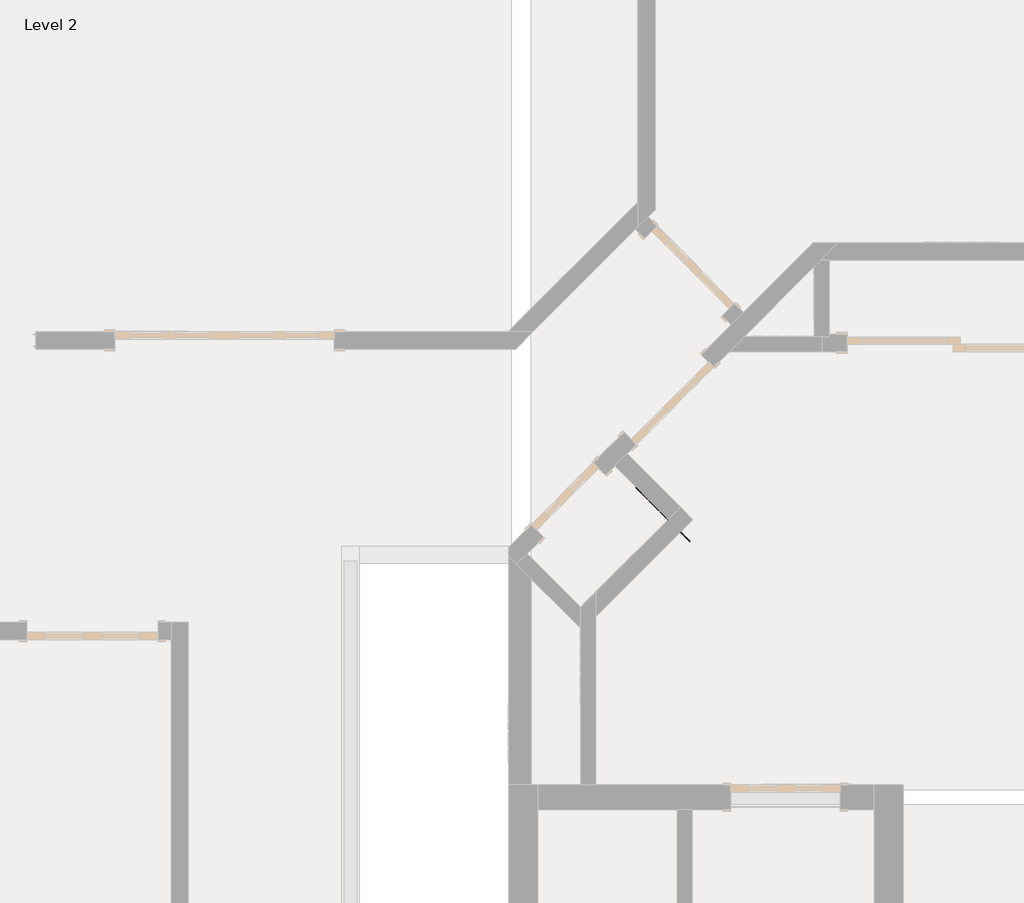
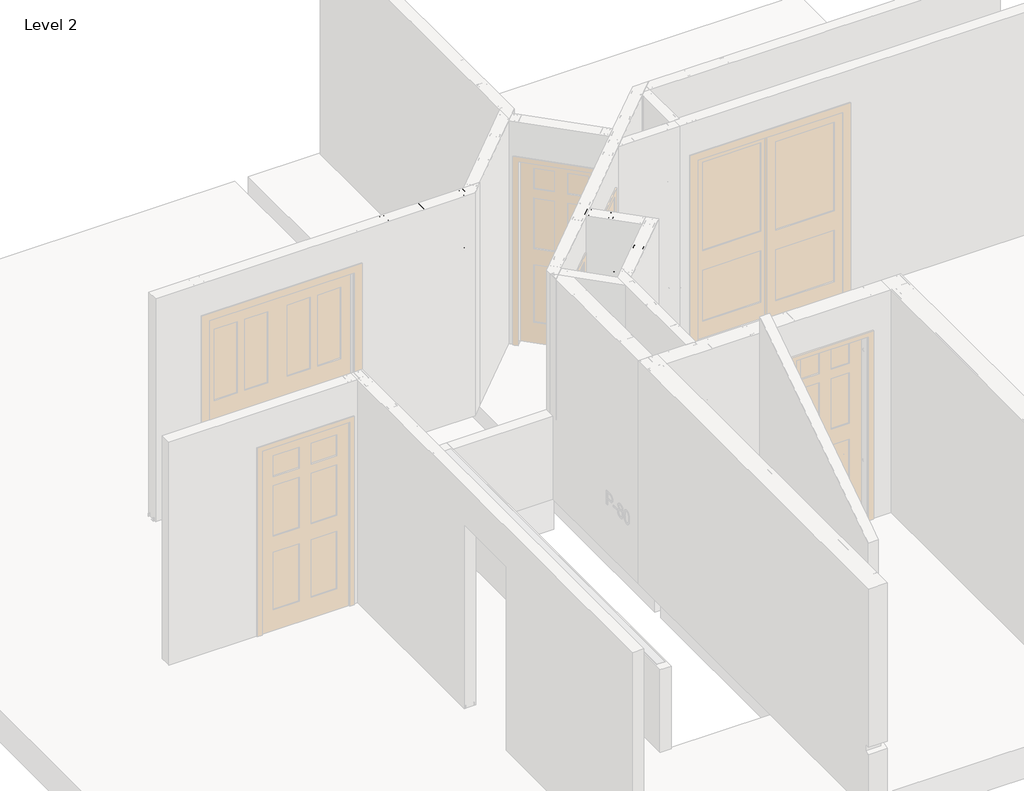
# One storey, part 31 of 46: 6 columns, 2 beams, 1 fastener.
"""IFC4 building model written with IfcOpenShell, lengths in millimetres."""

from ifc_helpers import new_model, si_unit, point, frame, origin, place, context, project, spatial, circle_curve, ellipse_curve, trimmed, transform, mapped, element, save
from ifc_brep_helpers import plane_surface, extruded_surface, advanced_brep
from components import beam_350nf150_33_7715317e, beam_350nf150_33_a87a63be, panellabel_a8dc8bce

model = new_model("IFC4")

# Units and contexts
model_context = context("Model", 3, world=origin())
ifc_project = project(units=[si_unit("LENGTHUNIT", "METRE", prefix="MILLI")], contexts=[model_context])

# Site, building, storey
site = spatial("IfcSite", under=ifc_project)
building = spatial("IfcBuilding", under=site)
storey = spatial("IfcBuildingStorey", under=building, Name="Level 2", Elevation=3060.7)

# Beams
placement = place(None, origin())
beam_350nf150_33_shape = beam_350nf150_33_7715317e(model_context)
element("IfcBeam", 1, ObjectType="BIMSF-SSMA-S : 350NF150-33", at=placement, inside=storey, context=model_context, shape_type="MappedRepresentation", body=[
    mapped(beam_350nf150_33_shape, transform((-9739.7604385, 9633.077221, 3076.575), x_axis=(1.0000000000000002, 0.0, 0.0), y_axis=(0.0, 0.0, -1.0000000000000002), z_axis=(0.0, 1.0000000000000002, 0.0))),
])
beam_350nf150_33_2_shape = beam_350nf150_33_a87a63be(model_context)
element("IfcBeam", 2, ObjectType="BIMSF-SSMA-S : 350NF150-33", at=placement, inside=storey, context=model_context, shape_type="MappedRepresentation", body=[
    mapped(beam_350nf150_33_2_shape, transform((-8122.4911484, 8584.2678593, 3076.575), x_axis=(-0.7071067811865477, 0.7071067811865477, 0.0), y_axis=(0.0, 0.0, -1.0000000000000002), z_axis=(-0.7071067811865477, -0.7071067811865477, 0.0))),
])

# Columns
element("IfcColumn", 3, ObjectType="BIMSF-SSMA-S-Column : 350NF150-33", at=placement, inside=storey, context=model_context, shape_type="AdvancedBrep", body=[
    advanced_brep(
    [(-9143.179542, 9677.527221, 3061.5929687), (-9143.179542, 9588.627221, 3061.5929687), (-9181.279542, 9588.627221, 3061.5929687), (-9181.279542, 9594.2847367, 3061.5929687), (-9180.3972263, 9594.2847367, 3061.5929687), (-9180.3972263, 9589.5095367, 3061.5929687), (-9144.0618578, 9589.5095367, 3061.5929687), (-9144.0618578, 9676.6449052, 3061.5929687), (-9180.3972263, 9676.6449052, 3061.5929687), (-9180.3972263, 9671.8697052, 3061.5929687), (-9181.279542, 9671.8697052, 3061.5929687), (-9181.279542, 9677.527221, 3061.5929687), (-9143.179542, 9677.527221, 5523.6070313), (-9143.179542, 9588.627221, 5523.6070313), (-9143.179542, 9620.377221, 3671.1929687), (-9143.179542, 9645.777221, 3671.1929687), (-9143.179542, 9620.377221, 4890.3929687), (-9143.179542, 9645.777221, 4890.3929687), (-9181.279542, 9588.627221, 5523.6070313), (-9181.279542, 9594.2847367, 5523.6070313), (-9180.3972263, 9594.2847367, 5523.6070313), (-9180.3972263, 9589.5095367, 5523.6070313), (-9144.0618578, 9589.5095367, 5523.6070313), (-9144.0618578, 9676.6449052, 5523.6070313), (-9144.0618578, 9645.777221, 3671.1929688), (-9144.0618578, 9620.377221, 3671.1929688), (-9144.0618578, 9645.777221, 4890.3929687), (-9144.0618578, 9620.377221, 4890.3929687), (-9180.3972263, 9676.6449052, 5523.6070313), (-9180.3972263, 9671.8697052, 5523.6070313), (-9181.279542, 9671.8697052, 5523.6070313), (-9181.279542, 9677.527221, 5523.6070313)],
    [
        (0, 1),
        (1, 2),
        (2, 3),
        (3, 4),
        (4, 5),
        (5, 6),
        (6, 7),
        (7, 8),
        (8, 9),
        (9, 10),
        (10, 11),
        (11, 0),
        (0, 12),
        (12, 13),
        (13, 1),
        (14, 15, circle_curve(frame((-9143.179542, 9633.077221, 3671.1929688), z_axis=(-1.0, 0.0, 0.0), x_axis=(0.0, -1.0, 0.0)), 12.7)),
        (15, 14, circle_curve(frame((-9143.179542, 9633.077221, 3671.1929688), z_axis=(-1.0, 0.0, 0.0), x_axis=(0.0, -1.0, 0.0)), 12.7)),
        (16, 17, circle_curve(frame((-9143.179542, 9633.077221, 4890.3929687), z_axis=(-1.0, 0.0, 0.0), x_axis=(0.0, -1.0, 0.0)), 12.7)),
        (17, 16, circle_curve(frame((-9143.179542, 9633.077221, 4890.3929687), z_axis=(-1.0, 0.0, 0.0), x_axis=(0.0, -1.0, 0.0)), 12.7)),
        (13, 18),
        (18, 2),
        (18, 19),
        (19, 3),
        (19, 20),
        (20, 4),
        (20, 21),
        (21, 5),
        (21, 22),
        (22, 6),
        (22, 23),
        (23, 7),
        (24, 25, circle_curve(frame((-9144.0618578, 9633.077221, 3671.1929687), z_axis=(1.0, 0.0, 0.0), x_axis=(0.0, -1.0, 0.0)), 12.7)),
        (25, 24, circle_curve(frame((-9144.0618578, 9633.077221, 3671.1929687), z_axis=(1.0, 0.0, 0.0), x_axis=(0.0, -1.0, 0.0)), 12.7)),
        (26, 27, circle_curve(frame((-9144.0618578, 9633.077221, 4890.3929687), z_axis=(1.0, 0.0, 0.0), x_axis=(0.0, -1.0, 0.0)), 12.7)),
        (27, 26, circle_curve(frame((-9144.0618578, 9633.077221, 4890.3929687), z_axis=(1.0, 0.0, 0.0), x_axis=(0.0, -1.0, 0.0)), 12.7)),
        (23, 28),
        (28, 8),
        (28, 29),
        (29, 9),
        (29, 30),
        (30, 10),
        (30, 31),
        (31, 11),
        (31, 12),
        (24, 15),
        (14, 25),
        (26, 17),
        (16, 27),
    ],
    [
        plane_surface(frame((-9143.179542, 9677.527221, 3061.5929687), z_axis=(0.0, 0.0, -1.0), x_axis=(1.0, 0.0, 0.0))),
        plane_surface(frame((-9143.179542, 9588.627221, 5523.6070313), z_axis=(1.0, 0.0, 0.0), x_axis=(0.0, 0.0, -1.0))),
        plane_surface(frame((-9181.279542, 9588.627221, 5523.6070313), z_axis=(0.0, -1.0, 0.0), x_axis=(0.0, 0.0, -1.0))),
        plane_surface(frame((-9181.279542, 9594.2847367, 5523.6070313), z_axis=(-1.0, 0.0, 0.0), x_axis=(0.0, 0.0, -1.0))),
        plane_surface(frame((-9180.3972263, 9594.2847367, 5523.6070313), z_axis=(0.0, 1.0, 0.0), x_axis=(0.0, 0.0, -1.0))),
        plane_surface(frame((-9180.3972263, 9589.5095367, 5523.6070313), z_axis=(1.0, 0.0, 0.0), x_axis=(0.0, 0.0, -1.0))),
        plane_surface(frame((-9144.0618578, 9589.5095367, 5523.6070313), z_axis=(0.0, 1.0, 0.0), x_axis=(0.0, 0.0, -1.0))),
        plane_surface(frame((-9144.0618578, 9676.6449052, 5523.6070313), z_axis=(-1.0, 0.0, 0.0), x_axis=(0.0, 0.0, -1.0))),
        plane_surface(frame((-9180.3972263, 9676.6449052, 5523.6070313), z_axis=(0.0, -1.0, 0.0), x_axis=(0.0, 0.0, -1.0))),
        plane_surface(frame((-9180.3972263, 9671.8697052, 5523.6070313), z_axis=(1.0, 0.0, 0.0), x_axis=(0.0, 0.0, -1.0))),
        plane_surface(frame((-9181.279542, 9671.8697052, 5523.6070313), z_axis=(0.0, -1.0, 0.0), x_axis=(0.0, 0.0, -1.0))),
        plane_surface(frame((-9181.279542, 9677.527221, 5523.6070313), z_axis=(-1.0, 0.0, 0.0), x_axis=(0.0, 0.0, -1.0))),
        plane_surface(frame((-9143.179542, 9677.527221, 5523.6070313), z_axis=(0.0, 1.0, 0.0), x_axis=(0.0, 0.0, -1.0))),
        plane_surface(frame((-9143.179542, 9677.527221, 5523.6070313), z_axis=(0.0, 0.0, 1.0), x_axis=(-1.0, 0.0, 0.0))),
        extruded_surface(trimmed(ellipse_curve(frame((-11624.2436045, 9633.077221, 3671.1929688), z_axis=(1.0, 0.0, 0.0), x_axis=(0.0, -1.0, 0.0)), 12.7, 12.7), [point((-11624.2436045, 9645.777221, 3671.1929688))], [point((-11624.2436045, 9620.377221, 3671.1929688))], True, "CARTESIAN"), (-4924.028125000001, 0.0, 0.0), 4924.028125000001),
        extruded_surface(trimmed(ellipse_curve(frame((-11624.2436045, 9633.077221, 3671.1929688), z_axis=(1.0, 0.0, 0.0), x_axis=(0.0, -1.0, 0.0)), 12.7, 12.7), [point((-11624.2436045, 9620.377221, 3671.1929688))], [point((-11624.2436045, 9645.777221, 3671.1929688))], True, "CARTESIAN"), (-4924.028125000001, 0.0, 0.0), 4924.028125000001),
        extruded_surface(trimmed(ellipse_curve(frame((-11624.2436045, 9633.077221, 4890.3929687), z_axis=(1.0, 0.0, 0.0), x_axis=(0.0, -1.0, 0.0)), 12.7, 12.7), [point((-11624.2436045, 9645.777221, 4890.3929687))], [point((-11624.2436045, 9620.377221, 4890.3929687))], True, "CARTESIAN"), (-4924.028125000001, 0.0, 0.0), 4924.028125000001),
        extruded_surface(trimmed(ellipse_curve(frame((-11624.2436045, 9633.077221, 4890.3929687), z_axis=(1.0, 0.0, 0.0), x_axis=(0.0, -1.0, 0.0)), 12.7, 12.7), [point((-11624.2436045, 9620.377221, 4890.3929687))], [point((-11624.2436045, 9645.777221, 4890.3929687))], True, "CARTESIAN"), (-4924.028125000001, 0.0, 0.0), 4924.028125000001),
    ],
    [
        (0, [[1, 2, 3, 4, 5, 6, 7, 8, 9, 10, 11, 12]]),
        (1, [[-1, 13, 14, 15], [16, 17], [18, 19]]),
        (2, [[-2, -15, 20, 21]]),
        (3, [[-3, -21, 22, 23]]),
        (4, [[-4, -23, 24, 25]]),
        (5, [[-5, -25, 26, 27]]),
        (6, [[-6, -27, 28, 29]]),
        (7, [[-7, -29, 30, 31], [32, 33], [34, 35]]),
        (8, [[-8, -31, 36, 37]]),
        (9, [[-9, -37, 38, 39]]),
        (10, [[-10, -39, 40, 41]]),
        (11, [[-11, -41, 42, 43]]),
        (12, [[-12, -43, 44, -13]]),
        (13, [[-14, -44, -42, -40, -38, -36, -30, -28, -26, -24, -22, -20]]),
        (14, [[45, -16, 46, -32]]),
        (15, [[-45, -33, -46, -17]]),
        (16, [[47, -18, 48, -34]]),
        (17, [[-47, -35, -48, -19]]),
    ],
),
])
element("IfcColumn", 4, ObjectType="BIMSF-SSMA-S-Column : 350NF150-33", at=placement, inside=storey, context=model_context, shape_type="AdvancedBrep", body=[
    advanced_brep(
    [(-10009.3163349, 9588.627221, 3061.5929687), (-10009.3163349, 9677.527221, 3061.5929687), (-9971.2163349, 9677.527221, 3061.5929687), (-9971.2163349, 9671.8697052, 3061.5929687), (-9972.0986507, 9671.8697052, 3061.5929687), (-9972.0986507, 9676.6449052, 3061.5929687), (-10008.4340191, 9676.6449052, 3061.5929687), (-10008.4340191, 9589.5095367, 3061.5929687), (-9972.0986507, 9589.5095367, 3061.5929687), (-9972.0986507, 9594.2847367, 3061.5929687), (-9971.2163349, 9594.2847367, 3061.5929687), (-9971.2163349, 9588.627221, 3061.5929687), (-10009.3163349, 9588.627221, 5523.6070313), (-10009.3163349, 9677.527221, 5523.6070313), (-10009.3163349, 9645.777221, 3671.1929688), (-10009.3163349, 9620.377221, 3671.1929688), (-10009.3163349, 9645.777221, 4890.3929687), (-10009.3163349, 9620.377221, 4890.3929687), (-9971.2163349, 9677.527221, 5523.6070313), (-9971.2163349, 9671.8697052, 5523.6070313), (-9972.0986507, 9671.8697052, 5523.6070313), (-9972.0986507, 9676.6449052, 5523.6070313), (-10008.4340191, 9676.6449052, 5523.6070313), (-10008.4340191, 9589.5095367, 5523.6070313), (-10008.4340191, 9620.377221, 3671.1929688), (-10008.4340191, 9645.777221, 3671.1929688), (-10008.4340191, 9620.377221, 4890.3929687), (-10008.4340191, 9645.777221, 4890.3929687), (-9972.0986507, 9589.5095367, 5523.6070313), (-9972.0986507, 9594.2847367, 5523.6070313), (-9971.2163349, 9594.2847367, 5523.6070313), (-9971.2163349, 9588.627221, 5523.6070313)],
    [
        (0, 1),
        (1, 2),
        (2, 3),
        (3, 4),
        (4, 5),
        (5, 6),
        (6, 7),
        (7, 8),
        (8, 9),
        (9, 10),
        (10, 11),
        (11, 0),
        (0, 12),
        (12, 13),
        (13, 1),
        (14, 15, circle_curve(frame((-10009.3163349, 9633.077221, 3671.1929687), z_axis=(1.0, 0.0, 0.0), x_axis=(0.0, 1.0, 0.0)), 12.7)),
        (15, 14, circle_curve(frame((-10009.3163349, 9633.077221, 3671.1929687), z_axis=(1.0, 0.0, 0.0), x_axis=(0.0, 1.0, 0.0)), 12.7)),
        (16, 17, circle_curve(frame((-10009.3163349, 9633.077221, 4890.3929687), z_axis=(1.0, 0.0, 0.0), x_axis=(0.0, 1.0, 0.0)), 12.7)),
        (17, 16, circle_curve(frame((-10009.3163349, 9633.077221, 4890.3929687), z_axis=(1.0, 0.0, 0.0), x_axis=(0.0, 1.0, 0.0)), 12.7)),
        (13, 18),
        (18, 2),
        (18, 19),
        (19, 3),
        (19, 20),
        (20, 4),
        (20, 21),
        (21, 5),
        (21, 22),
        (22, 6),
        (22, 23),
        (23, 7),
        (24, 25, circle_curve(frame((-10008.4340191, 9633.077221, 3671.1929688), z_axis=(-1.0, 0.0, 0.0), x_axis=(0.0, 1.0, 0.0)), 12.7)),
        (25, 24, circle_curve(frame((-10008.4340191, 9633.077221, 3671.1929688), z_axis=(-1.0, 0.0, 0.0), x_axis=(0.0, 1.0, 0.0)), 12.7)),
        (26, 27, circle_curve(frame((-10008.4340191, 9633.077221, 4890.3929687), z_axis=(-1.0, 0.0, 0.0), x_axis=(0.0, 1.0, 0.0)), 12.7)),
        (27, 26, circle_curve(frame((-10008.4340191, 9633.077221, 4890.3929687), z_axis=(-1.0, 0.0, 0.0), x_axis=(0.0, 1.0, 0.0)), 12.7)),
        (23, 28),
        (28, 8),
        (28, 29),
        (29, 9),
        (29, 30),
        (30, 10),
        (30, 31),
        (31, 11),
        (31, 12),
        (24, 15),
        (14, 25),
        (26, 17),
        (16, 27),
    ],
    [
        plane_surface(frame((-10009.3163349, 9588.627221, 3061.5929687), z_axis=(0.0, 0.0, -1.0), x_axis=(-1.0, 0.0, 0.0))),
        plane_surface(frame((-10009.3163349, 9677.527221, 5523.6070313), z_axis=(-1.0, 0.0, 0.0), x_axis=(0.0, 0.0, -1.0))),
        plane_surface(frame((-9971.2163349, 9677.527221, 5523.6070313), z_axis=(0.0, 1.0, 0.0), x_axis=(0.0, 0.0, -1.0))),
        plane_surface(frame((-9971.2163349, 9671.8697052, 5523.6070313), z_axis=(1.0, 0.0, 0.0), x_axis=(0.0, 0.0, -1.0))),
        plane_surface(frame((-9972.0986507, 9671.8697052, 5523.6070313), z_axis=(0.0, -1.0, 0.0), x_axis=(0.0, 0.0, -1.0))),
        plane_surface(frame((-9972.0986507, 9676.6449052, 5523.6070313), z_axis=(-1.0, 0.0, 0.0), x_axis=(0.0, 0.0, -1.0))),
        plane_surface(frame((-10008.4340191, 9676.6449052, 5523.6070313), z_axis=(0.0, -1.0, 0.0), x_axis=(0.0, 0.0, -1.0))),
        plane_surface(frame((-10008.4340191, 9589.5095367, 5523.6070313), z_axis=(1.0, 0.0, 0.0), x_axis=(0.0, 0.0, -1.0))),
        plane_surface(frame((-9972.0986507, 9589.5095367, 5523.6070313), z_axis=(0.0, 1.0, 0.0), x_axis=(0.0, 0.0, -1.0))),
        plane_surface(frame((-9972.0986507, 9594.2847367, 5523.6070313), z_axis=(-1.0, 0.0, 0.0), x_axis=(0.0, 0.0, -1.0))),
        plane_surface(frame((-9971.2163349, 9594.2847367, 5523.6070313), z_axis=(0.0, 1.0, 0.0), x_axis=(0.0, 0.0, -1.0))),
        plane_surface(frame((-9971.2163349, 9588.627221, 5523.6070313), z_axis=(1.0, 0.0, 0.0), x_axis=(0.0, 0.0, -1.0))),
        plane_surface(frame((-10009.3163349, 9588.627221, 5523.6070313), z_axis=(0.0, -1.0, 0.0), x_axis=(0.0, 0.0, -1.0))),
        plane_surface(frame((-10009.3163349, 9588.627221, 5523.6070313), z_axis=(0.0, 0.0, 1.0), x_axis=(1.0, 0.0, 0.0))),
        extruded_surface(trimmed(ellipse_curve(frame((-7528.2522724, 9633.077221, 3671.1929688), z_axis=(-1.0, 0.0, 0.0), x_axis=(0.0, 1.0, 0.0)), 12.7, 12.7), [point((-7528.2522724, 9620.377221, 3671.1929688))], [point((-7528.2522724, 9645.777221, 3671.1929688))], True, "CARTESIAN"), (4924.028125, 0.0, 0.0), 4924.028125),
        extruded_surface(trimmed(ellipse_curve(frame((-7528.2522724, 9633.077221, 3671.1929688), z_axis=(-1.0, 0.0, 0.0), x_axis=(0.0, 1.0, 0.0)), 12.7, 12.7), [point((-7528.2522724, 9645.777221, 3671.1929688))], [point((-7528.2522724, 9620.377221, 3671.1929688))], True, "CARTESIAN"), (4924.028125, 0.0, 0.0), 4924.028125),
        extruded_surface(trimmed(ellipse_curve(frame((-7528.2522724, 9633.077221, 4890.3929687), z_axis=(-1.0, 0.0, 0.0), x_axis=(0.0, 1.0, 0.0)), 12.7, 12.7), [point((-7528.2522724, 9620.377221, 4890.3929687))], [point((-7528.2522724, 9645.777221, 4890.3929687))], True, "CARTESIAN"), (4924.028125, 0.0, 0.0), 4924.028125),
        extruded_surface(trimmed(ellipse_curve(frame((-7528.2522724, 9633.077221, 4890.3929687), z_axis=(-1.0, 0.0, 0.0), x_axis=(0.0, 1.0, 0.0)), 12.7, 12.7), [point((-7528.2522724, 9645.777221, 4890.3929687))], [point((-7528.2522724, 9620.377221, 4890.3929687))], True, "CARTESIAN"), (4924.028125, 0.0, 0.0), 4924.028125),
    ],
    [
        (0, [[1, 2, 3, 4, 5, 6, 7, 8, 9, 10, 11, 12]]),
        (1, [[-1, 13, 14, 15], [16, 17], [18, 19]]),
        (2, [[-2, -15, 20, 21]]),
        (3, [[-3, -21, 22, 23]]),
        (4, [[-4, -23, 24, 25]]),
        (5, [[-5, -25, 26, 27]]),
        (6, [[-6, -27, 28, 29]]),
        (7, [[-7, -29, 30, 31], [32, 33], [34, 35]]),
        (8, [[-8, -31, 36, 37]]),
        (9, [[-9, -37, 38, 39]]),
        (10, [[-10, -39, 40, 41]]),
        (11, [[-11, -41, 42, 43]]),
        (12, [[-12, -43, 44, -13]]),
        (13, [[-14, -44, -42, -40, -38, -36, -30, -28, -26, -24, -22, -20]]),
        (14, [[45, -16, 46, -32]]),
        (15, [[-45, -33, -46, -17]]),
        (16, [[47, -18, 48, -34]]),
        (17, [[-47, -35, -48, -19]]),
    ],
),
])
element("IfcColumn", 5, ObjectType="BIMSF-SSMA-S-Column : 350NF150-33", at=placement, inside=storey, context=model_context, shape_type="AdvancedBrep", body=[
    advanced_brep(
    [(-9602.9163349, 9588.627221, 3061.5929687), (-9602.9163349, 9677.527221, 3061.5929687), (-9564.8163349, 9677.527221, 3061.5929687), (-9564.8163349, 9671.8697052, 3061.5929687), (-9565.6986507, 9671.8697052, 3061.5929687), (-9565.6986507, 9676.6449052, 3061.5929687), (-9602.0340191, 9676.6449052, 3061.5929687), (-9602.0340191, 9589.5095367, 3061.5929687), (-9565.6986507, 9589.5095367, 3061.5929687), (-9565.6986507, 9594.2847367, 3061.5929687), (-9564.8163349, 9594.2847367, 3061.5929687), (-9564.8163349, 9588.627221, 3061.5929687), (-9602.9163349, 9588.627221, 5523.6070313), (-9602.9163349, 9677.527221, 5523.6070313), (-9602.9163349, 9645.777221, 3671.1929687), (-9602.9163349, 9620.377221, 3671.1929687), (-9602.9163349, 9645.777221, 4890.3929687), (-9602.9163349, 9620.377221, 4890.3929687), (-9564.8163349, 9677.527221, 5523.6070313), (-9564.8163349, 9671.8697052, 5523.6070313), (-9565.6986507, 9671.8697052, 5523.6070313), (-9565.6986507, 9676.6449052, 5523.6070313), (-9602.0340191, 9676.6449052, 5523.6070313), (-9602.0340191, 9589.5095367, 5523.6070313), (-9602.0340191, 9620.377221, 3671.1929688), (-9602.0340191, 9645.777221, 3671.1929688), (-9602.0340191, 9620.377221, 4890.3929687), (-9602.0340191, 9645.777221, 4890.3929687), (-9565.6986507, 9589.5095367, 5523.6070313), (-9565.6986507, 9594.2847367, 5523.6070313), (-9564.8163349, 9594.2847367, 5523.6070313), (-9564.8163349, 9588.627221, 5523.6070313)],
    [
        (0, 1),
        (1, 2),
        (2, 3),
        (3, 4),
        (4, 5),
        (5, 6),
        (6, 7),
        (7, 8),
        (8, 9),
        (9, 10),
        (10, 11),
        (11, 0),
        (0, 12),
        (12, 13),
        (13, 1),
        (14, 15, circle_curve(frame((-9602.9163349, 9633.077221, 3671.1929688), z_axis=(1.0, 0.0, 0.0), x_axis=(0.0, 1.0, 0.0)), 12.7)),
        (15, 14, circle_curve(frame((-9602.9163349, 9633.077221, 3671.1929688), z_axis=(1.0, 0.0, 0.0), x_axis=(0.0, 1.0, 0.0)), 12.7)),
        (16, 17, circle_curve(frame((-9602.9163349, 9633.077221, 4890.3929687), z_axis=(1.0, 0.0, 0.0), x_axis=(0.0, 1.0, 0.0)), 12.7)),
        (17, 16, circle_curve(frame((-9602.9163349, 9633.077221, 4890.3929687), z_axis=(1.0, 0.0, 0.0), x_axis=(0.0, 1.0, 0.0)), 12.7)),
        (13, 18),
        (18, 2),
        (18, 19),
        (19, 3),
        (19, 20),
        (20, 4),
        (20, 21),
        (21, 5),
        (21, 22),
        (22, 6),
        (22, 23),
        (23, 7),
        (24, 25, circle_curve(frame((-9602.0340191, 9633.077221, 3671.1929687), z_axis=(-1.0, 0.0, 0.0), x_axis=(0.0, 1.0, 0.0)), 12.7)),
        (25, 24, circle_curve(frame((-9602.0340191, 9633.077221, 3671.1929687), z_axis=(-1.0, 0.0, 0.0), x_axis=(0.0, 1.0, 0.0)), 12.7)),
        (26, 27, circle_curve(frame((-9602.0340191, 9633.077221, 4890.3929687), z_axis=(-1.0, 0.0, 0.0), x_axis=(0.0, 1.0, 0.0)), 12.7)),
        (27, 26, circle_curve(frame((-9602.0340191, 9633.077221, 4890.3929687), z_axis=(-1.0, 0.0, 0.0), x_axis=(0.0, 1.0, 0.0)), 12.7)),
        (23, 28),
        (28, 8),
        (28, 29),
        (29, 9),
        (29, 30),
        (30, 10),
        (30, 31),
        (31, 11),
        (31, 12),
        (24, 15),
        (14, 25),
        (26, 17),
        (16, 27),
    ],
    [
        plane_surface(frame((-9602.9163349, 9588.627221, 3061.5929687), z_axis=(0.0, 0.0, -1.0), x_axis=(-1.0, 0.0, 0.0))),
        plane_surface(frame((-9602.9163349, 9677.527221, 5523.6070313), z_axis=(-1.0, 0.0, 0.0), x_axis=(0.0, 0.0, -1.0))),
        plane_surface(frame((-9564.8163349, 9677.527221, 5523.6070313), z_axis=(0.0, 1.0, 0.0), x_axis=(0.0, 0.0, -1.0))),
        plane_surface(frame((-9564.8163349, 9671.8697052, 5523.6070313), z_axis=(1.0, 0.0, 0.0), x_axis=(0.0, 0.0, -1.0))),
        plane_surface(frame((-9565.6986507, 9671.8697052, 5523.6070313), z_axis=(0.0, -1.0, 0.0), x_axis=(0.0, 0.0, -1.0))),
        plane_surface(frame((-9565.6986507, 9676.6449052, 5523.6070313), z_axis=(-1.0, 0.0, 0.0), x_axis=(0.0, 0.0, -1.0))),
        plane_surface(frame((-9602.0340191, 9676.6449052, 5523.6070313), z_axis=(0.0, -1.0, 0.0), x_axis=(0.0, 0.0, -1.0))),
        plane_surface(frame((-9602.0340191, 9589.5095367, 5523.6070313), z_axis=(1.0, 0.0, 0.0), x_axis=(0.0, 0.0, -1.0))),
        plane_surface(frame((-9565.6986507, 9589.5095367, 5523.6070313), z_axis=(0.0, 1.0, 0.0), x_axis=(0.0, 0.0, -1.0))),
        plane_surface(frame((-9565.6986507, 9594.2847367, 5523.6070313), z_axis=(-1.0, 0.0, 0.0), x_axis=(0.0, 0.0, -1.0))),
        plane_surface(frame((-9564.8163349, 9594.2847367, 5523.6070313), z_axis=(0.0, 1.0, 0.0), x_axis=(0.0, 0.0, -1.0))),
        plane_surface(frame((-9564.8163349, 9588.627221, 5523.6070313), z_axis=(1.0, 0.0, 0.0), x_axis=(0.0, 0.0, -1.0))),
        plane_surface(frame((-9602.9163349, 9588.627221, 5523.6070313), z_axis=(0.0, -1.0, 0.0), x_axis=(0.0, 0.0, -1.0))),
        plane_surface(frame((-9602.9163349, 9588.627221, 5523.6070313), z_axis=(0.0, 0.0, 1.0), x_axis=(1.0, 0.0, 0.0))),
        extruded_surface(trimmed(ellipse_curve(frame((-7121.8522724, 9633.077221, 3671.1929688), z_axis=(-1.0, 0.0, 0.0), x_axis=(0.0, 1.0, 0.0)), 12.7, 12.7), [point((-7121.8522724, 9620.377221, 3671.1929688))], [point((-7121.8522724, 9645.777221, 3671.1929688))], True, "CARTESIAN"), (4924.028125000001, 0.0, 0.0), 4924.028125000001),
        extruded_surface(trimmed(ellipse_curve(frame((-7121.8522724, 9633.077221, 3671.1929688), z_axis=(-1.0, 0.0, 0.0), x_axis=(0.0, 1.0, 0.0)), 12.7, 12.7), [point((-7121.8522724, 9645.777221, 3671.1929688))], [point((-7121.8522724, 9620.377221, 3671.1929688))], True, "CARTESIAN"), (4924.028125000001, 0.0, 0.0), 4924.028125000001),
        extruded_surface(trimmed(ellipse_curve(frame((-7121.8522724, 9633.077221, 4890.3929687), z_axis=(-1.0, 0.0, 0.0), x_axis=(0.0, 1.0, 0.0)), 12.7, 12.7), [point((-7121.8522724, 9620.377221, 4890.3929687))], [point((-7121.8522724, 9645.777221, 4890.3929687))], True, "CARTESIAN"), (4924.028125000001, 0.0, 0.0), 4924.028125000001),
        extruded_surface(trimmed(ellipse_curve(frame((-7121.8522724, 9633.077221, 4890.3929687), z_axis=(-1.0, 0.0, 0.0), x_axis=(0.0, 1.0, 0.0)), 12.7, 12.7), [point((-7121.8522724, 9645.777221, 4890.3929687))], [point((-7121.8522724, 9620.377221, 4890.3929687))], True, "CARTESIAN"), (4924.028125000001, 0.0, 0.0), 4924.028125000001),
    ],
    [
        (0, [[1, 2, 3, 4, 5, 6, 7, 8, 9, 10, 11, 12]]),
        (1, [[-1, 13, 14, 15], [16, 17], [18, 19]]),
        (2, [[-2, -15, 20, 21]]),
        (3, [[-3, -21, 22, 23]]),
        (4, [[-4, -23, 24, 25]]),
        (5, [[-5, -25, 26, 27]]),
        (6, [[-6, -27, 28, 29]]),
        (7, [[-7, -29, 30, 31], [32, 33], [34, 35]]),
        (8, [[-8, -31, 36, 37]]),
        (9, [[-9, -37, 38, 39]]),
        (10, [[-10, -39, 40, 41]]),
        (11, [[-11, -41, 42, 43]]),
        (12, [[-12, -43, 44, -13]]),
        (13, [[-14, -44, -42, -40, -38, -36, -30, -28, -26, -24, -22, -20]]),
        (14, [[45, -16, 46, -32]]),
        (15, [[-45, -33, -46, -17]]),
        (16, [[47, -18, 48, -34]]),
        (17, [[-47, -35, -48, -19]]),
    ],
),
])
element("IfcColumn", 6, ObjectType="BIMSF-SSMA-S-Column : 350NF150-33", at=placement, inside=storey, context=model_context, shape_type="AdvancedBrep", body=[
    advanced_brep(
    [(-8203.2435575, 8045.522388, 3061.5929687), (-8266.1053504, 8108.3841808, 3061.5929687), (-8239.164582, 8135.3249492, 3061.5929687), (-8235.1641142, 8131.3244814, 3061.5929687), (-8235.7880057, 8130.7005899, 3061.5929687), (-8239.164582, 8134.0771662, 3061.5929687), (-8264.8575674, 8108.3841808, 3061.5929687), (-8203.2435575, 8046.7701709, 3061.5929687), (-8177.5505721, 8072.4631563, 3061.5929687), (-8180.9271484, 8075.8397326, 3061.5929687), (-8180.3032569, 8076.4636241, 3061.5929687), (-8176.3027892, 8072.4631563, 3061.5929687), (-8203.2435575, 8045.522388, 5523.6070313), (-8266.1053504, 8108.3841808, 5523.6070313), (-8243.6547101, 8085.9335405, 3671.1929688), (-8225.6941978, 8067.9730283, 3671.1929688), (-8243.6547101, 8085.9335405, 4890.3929687), (-8225.6941978, 8067.9730283, 4890.3929687), (-8239.164582, 8135.3249492, 5523.6070313), (-8235.1641142, 8131.3244814, 5523.6070313), (-8235.7880057, 8130.7005899, 5523.6070313), (-8239.164582, 8134.0771662, 5523.6070313), (-8264.8575674, 8108.3841808, 5523.6070313), (-8203.2435575, 8046.7701709, 5523.6070313), (-8225.0703064, 8068.5969198, 3671.1929688), (-8243.0308186, 8086.557432, 3671.1929688), (-8225.0703064, 8068.5969198, 4890.3929688), (-8243.0308186, 8086.557432, 4890.3929687), (-8177.5505721, 8072.4631563, 5523.6070313), (-8180.9271484, 8075.8397326, 5523.6070313), (-8180.3032569, 8076.4636241, 5523.6070313), (-8176.3027892, 8072.4631563, 5523.6070313)],
    [
        (0, 1),
        (1, 2),
        (2, 3),
        (3, 4),
        (4, 5),
        (5, 6),
        (6, 7),
        (7, 8),
        (8, 9),
        (9, 10),
        (10, 11),
        (11, 0),
        (0, 12),
        (12, 13),
        (13, 1),
        (14, 15, circle_curve(frame((-8234.6744539, 8076.9532844, 3671.1929688), z_axis=(0.7071067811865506, 0.7071067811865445, 0.0), x_axis=(-0.7071067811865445, 0.7071067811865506, 0.0)), 12.7)),
        (15, 14, circle_curve(frame((-8234.6744539, 8076.9532844, 3671.1929687), z_axis=(0.7071067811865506, 0.7071067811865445, 0.0), x_axis=(-0.7071067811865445, 0.7071067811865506, 0.0)), 12.7)),
        (16, 17, circle_curve(frame((-8234.6744539, 8076.9532844, 4890.3929687), z_axis=(0.7071067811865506, 0.7071067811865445, 0.0), x_axis=(-0.7071067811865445, 0.7071067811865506, 0.0)), 12.7)),
        (17, 16, circle_curve(frame((-8234.6744539, 8076.9532844, 4890.3929687), z_axis=(0.7071067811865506, 0.7071067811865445, 0.0), x_axis=(-0.7071067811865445, 0.7071067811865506, 0.0)), 12.7)),
        (13, 18),
        (18, 2),
        (18, 19),
        (19, 3),
        (19, 20),
        (20, 4),
        (20, 21),
        (21, 5),
        (21, 22),
        (22, 6),
        (22, 23),
        (23, 7),
        (24, 25, circle_curve(frame((-8234.0505625, 8077.5771759, 3671.1929688), z_axis=(-0.7071067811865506, -0.7071067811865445, 0.0), x_axis=(-0.7071067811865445, 0.7071067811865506, 0.0)), 12.7)),
        (25, 24, circle_curve(frame((-8234.0505625, 8077.5771759, 3671.1929688), z_axis=(-0.7071067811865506, -0.7071067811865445, 0.0), x_axis=(-0.7071067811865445, 0.7071067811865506, 0.0)), 12.7)),
        (26, 27, circle_curve(frame((-8234.0505625, 8077.5771759, 4890.3929687), z_axis=(-0.7071067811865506, -0.7071067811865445, 0.0), x_axis=(-0.7071067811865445, 0.7071067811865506, 0.0)), 12.7)),
        (27, 26, circle_curve(frame((-8234.0505625, 8077.5771759, 4890.3929687), z_axis=(-0.7071067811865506, -0.7071067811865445, 0.0), x_axis=(-0.7071067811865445, 0.7071067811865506, 0.0)), 12.7)),
        (23, 28),
        (28, 8),
        (28, 29),
        (29, 9),
        (29, 30),
        (30, 10),
        (30, 31),
        (31, 11),
        (31, 12),
        (24, 15),
        (14, 25),
        (26, 17),
        (16, 27),
    ],
    [
        plane_surface(frame((-8203.2435575, 8045.522388, 3061.5929687), z_axis=(0.0, 0.0, -1.0), x_axis=(-0.7071067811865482, -0.7071067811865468, 0.0))),
        plane_surface(frame((-8266.1053504, 8108.3841808, 5523.6070313), z_axis=(-0.7071067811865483, -0.7071067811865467, 0.0), x_axis=(0.0, 0.0, -1.0))),
        plane_surface(frame((-8239.164582, 8135.3249492, 5523.6070313), z_axis=(-0.7071067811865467, 0.7071067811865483, 0.0), x_axis=(0.0, 0.0, -1.0))),
        plane_surface(frame((-8235.1641142, 8131.3244814, 5523.6070313), z_axis=(0.7071067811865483, 0.7071067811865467, 0.0), x_axis=(0.0, 0.0, -1.0))),
        plane_surface(frame((-8235.7880057, 8130.7005899, 5523.6070313), z_axis=(0.7071067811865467, -0.7071067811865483, 0.0), x_axis=(0.0, 0.0, -1.0))),
        plane_surface(frame((-8239.164582, 8134.0771662, 5523.6070313), z_axis=(-0.7071067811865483, -0.7071067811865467, 0.0), x_axis=(0.0, 0.0, -1.0))),
        plane_surface(frame((-8264.8575674, 8108.3841808, 5523.6070313), z_axis=(0.7071067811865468, -0.7071067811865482, 0.0), x_axis=(0.0, 0.0, -1.0))),
        plane_surface(frame((-8203.2435575, 8046.7701709, 5523.6070313), z_axis=(0.7071067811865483, 0.7071067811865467, 0.0), x_axis=(0.0, 0.0, -1.0))),
        plane_surface(frame((-8177.5505721, 8072.4631563, 5523.6070313), z_axis=(-0.7071067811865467, 0.7071067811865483, 0.0), x_axis=(0.0, 0.0, -1.0))),
        plane_surface(frame((-8180.9271484, 8075.8397326, 5523.6070313), z_axis=(-0.7071067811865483, -0.7071067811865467, 0.0), x_axis=(0.0, 0.0, -1.0))),
        plane_surface(frame((-8180.3032569, 8076.4636241, 5523.6070313), z_axis=(-0.7071067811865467, 0.7071067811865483, 0.0), x_axis=(0.0, 0.0, -1.0))),
        plane_surface(frame((-8176.3027892, 8072.4631563, 5523.6070313), z_axis=(0.7071067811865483, 0.7071067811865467, 0.0), x_axis=(0.0, 0.0, -1.0))),
        plane_surface(frame((-8203.2435575, 8045.522388, 5523.6070313), z_axis=(0.7071067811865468, -0.7071067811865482, 0.0), x_axis=(0.0, 0.0, -1.0))),
        plane_surface(frame((-8203.2435575, 8045.522388, 5523.6070313), z_axis=(0.0, 0.0, 1.0), x_axis=(0.7071067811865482, 0.7071067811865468, 0.0))),
        extruded_surface(trimmed(ellipse_curve(frame((-6480.2972308, 9831.3305076, 3671.1929688), z_axis=(-0.7071067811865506, -0.7071067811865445, 0.0), x_axis=(-0.7071067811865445, 0.7071067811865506, 0.0)), 12.7, 12.7), [point((-6471.3169747, 9822.3502514, 3671.1929688))], [point((-6489.2774869, 9840.3107637, 3671.1929688))], True, "CARTESIAN"), (3481.8136778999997, 3481.8136778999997, 0.0), 4924.028124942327),
        extruded_surface(trimmed(ellipse_curve(frame((-6480.2972308, 9831.3305076, 3671.1929688), z_axis=(-0.7071067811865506, -0.7071067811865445, 0.0), x_axis=(-0.7071067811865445, 0.7071067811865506, 0.0)), 12.7, 12.7), [point((-6489.2774869, 9840.3107637, 3671.1929688))], [point((-6471.3169747, 9822.3502514, 3671.1929688))], True, "CARTESIAN"), (3481.8136778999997, 3481.8136778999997, 0.0), 4924.028124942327),
        extruded_surface(trimmed(ellipse_curve(frame((-6480.2972308, 9831.3305076, 4890.3929687), z_axis=(-0.7071067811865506, -0.7071067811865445, 0.0), x_axis=(-0.7071067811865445, 0.7071067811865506, 0.0)), 12.7, 12.7), [point((-6471.3169747, 9822.3502514, 4890.3929687))], [point((-6489.2774869, 9840.3107637, 4890.3929687))], True, "CARTESIAN"), (3481.8136778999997, 3481.8136778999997, 0.0), 4924.028124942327),
        extruded_surface(trimmed(ellipse_curve(frame((-6480.2972308, 9831.3305076, 4890.3929687), z_axis=(-0.7071067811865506, -0.7071067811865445, 0.0), x_axis=(-0.7071067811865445, 0.7071067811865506, 0.0)), 12.7, 12.7), [point((-6489.2774869, 9840.3107637, 4890.3929687))], [point((-6471.3169747, 9822.3502514, 4890.3929687))], True, "CARTESIAN"), (3481.8136778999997, 3481.8136778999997, 0.0), 4924.028124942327),
    ],
    [
        (0, [[1, 2, 3, 4, 5, 6, 7, 8, 9, 10, 11, 12]]),
        (1, [[-1, 13, 14, 15], [16, 17], [18, 19]]),
        (2, [[-2, -15, 20, 21]]),
        (3, [[-3, -21, 22, 23]]),
        (4, [[-4, -23, 24, 25]]),
        (5, [[-5, -25, 26, 27]]),
        (6, [[-6, -27, 28, 29]]),
        (7, [[-7, -29, 30, 31], [32, 33], [34, 35]]),
        (8, [[-8, -31, 36, 37]]),
        (9, [[-9, -37, 38, 39]]),
        (10, [[-10, -39, 40, 41]]),
        (11, [[-11, -41, 42, 43]]),
        (12, [[-12, -43, 44, -13]]),
        (13, [[-14, -44, -42, -40, -38, -36, -30, -28, -26, -24, -22, -20]]),
        (14, [[45, -16, 46, -32]]),
        (15, [[-45, -33, -46, -17]]),
        (16, [[47, -18, 48, -34]]),
        (17, [[-47, -35, -48, -19]]),
    ],
),
])
element("IfcColumn", 7, ObjectType="BIMSF-SSMA-S-Column : 350NF150-33", at=placement, inside=storey, context=model_context, shape_type="AdvancedBrep", body=[
    advanced_brep(
    [(-8382.9185759, 8781.8334939, 3061.5929687), (-8320.0567831, 8844.6952868, 3061.5929687), (-8293.1160147, 8817.7545184, 3061.5929687), (-8297.1164825, 8813.7540506, 3061.5929687), (-8297.740374, 8814.3779421, 3061.5929687), (-8294.3637977, 8817.7545184, 3061.5929687), (-8320.0567831, 8843.4475038, 3061.5929687), (-8381.670793, 8781.8334939, 3061.5929687), (-8355.9778076, 8756.1405085, 3061.5929687), (-8352.6012313, 8759.5170848, 3061.5929687), (-8351.9773398, 8758.8931933, 3061.5929687), (-8355.9778076, 8754.8927256, 3061.5929687), (-8382.9185759, 8781.8334939, 5523.6070313), (-8320.0567831, 8844.6952868, 5523.6070313), (-8342.5074234, 8822.2446465, 3671.1929688), (-8360.4679356, 8804.2841342, 3671.1929688), (-8342.5074234, 8822.2446465, 4890.3929687), (-8360.4679356, 8804.2841342, 4890.3929687), (-8293.1160147, 8817.7545184, 5523.6070313), (-8297.1164825, 8813.7540506, 5523.6070313), (-8297.740374, 8814.3779421, 5523.6070313), (-8294.3637977, 8817.7545184, 5523.6070313), (-8320.0567831, 8843.4475038, 5523.6070313), (-8381.670793, 8781.8334939, 5523.6070313), (-8359.8440442, 8803.6602427, 3671.1929688), (-8341.8835319, 8821.620755, 3671.1929688), (-8359.8440442, 8803.6602427, 4890.3929687), (-8341.8835319, 8821.620755, 4890.3929687), (-8355.9778076, 8756.1405085, 5523.6070313), (-8352.6012313, 8759.5170848, 5523.6070313), (-8351.9773398, 8758.8931933, 5523.6070313), (-8355.9778076, 8754.8927256, 5523.6070313)],
    [
        (0, 1),
        (1, 2),
        (2, 3),
        (3, 4),
        (4, 5),
        (5, 6),
        (6, 7),
        (7, 8),
        (8, 9),
        (9, 10),
        (10, 11),
        (11, 0),
        (0, 12),
        (12, 13),
        (13, 1),
        (14, 15, circle_curve(frame((-8351.4876795, 8813.2643903, 3671.1929688), z_axis=(0.7071067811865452, -0.7071067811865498, 0.0), x_axis=(0.7071067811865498, 0.7071067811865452, 0.0)), 12.7)),
        (15, 14, circle_curve(frame((-8351.4876795, 8813.2643903, 3671.1929688), z_axis=(0.7071067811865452, -0.7071067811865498, 0.0), x_axis=(0.7071067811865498, 0.7071067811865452, 0.0)), 12.7)),
        (16, 17, circle_curve(frame((-8351.4876795, 8813.2643903, 4890.3929688), z_axis=(0.7071067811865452, -0.7071067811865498, 0.0), x_axis=(0.7071067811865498, 0.7071067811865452, 0.0)), 12.7)),
        (17, 16, circle_curve(frame((-8351.4876795, 8813.2643903, 4890.3929687), z_axis=(0.7071067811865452, -0.7071067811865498, 0.0), x_axis=(0.7071067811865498, 0.7071067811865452, 0.0)), 12.7)),
        (13, 18),
        (18, 2),
        (18, 19),
        (19, 3),
        (19, 20),
        (20, 4),
        (20, 21),
        (21, 5),
        (21, 22),
        (22, 6),
        (22, 23),
        (23, 7),
        (24, 25, circle_curve(frame((-8350.863788, 8812.6404989, 3671.1929687), z_axis=(-0.7071067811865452, 0.7071067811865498, 0.0), x_axis=(0.7071067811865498, 0.7071067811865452, 0.0)), 12.7)),
        (25, 24, circle_curve(frame((-8350.863788, 8812.6404989, 3671.1929687), z_axis=(-0.7071067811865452, 0.7071067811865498, 0.0), x_axis=(0.7071067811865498, 0.7071067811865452, 0.0)), 12.7)),
        (26, 27, circle_curve(frame((-8350.863788, 8812.6404989, 4890.3929687), z_axis=(-0.7071067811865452, 0.7071067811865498, 0.0), x_axis=(0.7071067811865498, 0.7071067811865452, 0.0)), 12.7)),
        (27, 26, circle_curve(frame((-8350.863788, 8812.6404989, 4890.3929687), z_axis=(-0.7071067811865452, 0.7071067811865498, 0.0), x_axis=(0.7071067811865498, 0.7071067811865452, 0.0)), 12.7)),
        (23, 28),
        (28, 8),
        (28, 29),
        (29, 9),
        (29, 30),
        (30, 10),
        (30, 31),
        (31, 11),
        (31, 12),
        (24, 15),
        (14, 25),
        (26, 17),
        (16, 27),
    ],
    [
        plane_surface(frame((-8382.9185759, 8781.8334939, 3061.5929687), z_axis=(0.0, 0.0, -1.0), x_axis=(-0.7071067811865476, 0.7071067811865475, 0.0))),
        plane_surface(frame((-8320.0567831, 8844.6952868, 5523.6070313), z_axis=(-0.7071067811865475, 0.7071067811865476, 0.0), x_axis=(0.0, 0.0, -1.0))),
        plane_surface(frame((-8293.1160147, 8817.7545184, 5523.6070313), z_axis=(0.7071067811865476, 0.7071067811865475, 0.0), x_axis=(0.0, 0.0, -1.0))),
        plane_surface(frame((-8297.1164825, 8813.7540506, 5523.6070313), z_axis=(0.7071067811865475, -0.7071067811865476, 0.0), x_axis=(0.0, 0.0, -1.0))),
        plane_surface(frame((-8297.740374, 8814.3779421, 5523.6070313), z_axis=(-0.7071067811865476, -0.7071067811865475, 0.0), x_axis=(0.0, 0.0, -1.0))),
        plane_surface(frame((-8294.3637977, 8817.7545184, 5523.6070313), z_axis=(-0.7071067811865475, 0.7071067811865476, 0.0), x_axis=(0.0, 0.0, -1.0))),
        plane_surface(frame((-8320.0567831, 8843.4475038, 5523.6070313), z_axis=(-0.7071067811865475, -0.7071067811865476, 0.0), x_axis=(0.0, 0.0, -1.0))),
        plane_surface(frame((-8381.670793, 8781.8334939, 5523.6070313), z_axis=(0.7071067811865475, -0.7071067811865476, 0.0), x_axis=(0.0, 0.0, -1.0))),
        plane_surface(frame((-8355.9778076, 8756.1405085, 5523.6070313), z_axis=(0.7071067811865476, 0.7071067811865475, 0.0), x_axis=(0.0, 0.0, -1.0))),
        plane_surface(frame((-8352.6012313, 8759.5170848, 5523.6070313), z_axis=(-0.7071067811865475, 0.7071067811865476, 0.0), x_axis=(0.0, 0.0, -1.0))),
        plane_surface(frame((-8351.9773398, 8758.8931933, 5523.6070313), z_axis=(0.7071067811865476, 0.7071067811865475, 0.0), x_axis=(0.0, 0.0, -1.0))),
        plane_surface(frame((-8355.9778076, 8754.8927256, 5523.6070313), z_axis=(0.7071067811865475, -0.7071067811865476, 0.0), x_axis=(0.0, 0.0, -1.0))),
        plane_surface(frame((-8382.9185759, 8781.8334939, 5523.6070313), z_axis=(-0.7071067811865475, -0.7071067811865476, 0.0), x_axis=(0.0, 0.0, -1.0))),
        plane_surface(frame((-8382.9185759, 8781.8334939, 5523.6070313), z_axis=(0.0, 0.0, 1.0), x_axis=(0.7071067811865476, -0.7071067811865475, 0.0))),
        extruded_surface(trimmed(ellipse_curve(frame((-6597.1104564, 7058.8871672, 3671.1929688), z_axis=(-0.7071067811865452, 0.7071067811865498, 0.0), x_axis=(0.7071067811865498, 0.7071067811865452, 0.0)), 12.7, 12.7), [point((-6606.0907125, 7049.9069111, 3671.1929688))], [point((-6588.1302002, 7067.8674233, 3671.1929688))], True, "CARTESIAN"), (3481.8136779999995, -3481.8136779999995, 0.0), 4924.028125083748),
        extruded_surface(trimmed(ellipse_curve(frame((-6597.1104564, 7058.8871672, 3671.1929688), z_axis=(-0.7071067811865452, 0.7071067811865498, 0.0), x_axis=(0.7071067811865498, 0.7071067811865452, 0.0)), 12.7, 12.7), [point((-6588.1302002, 7067.8674233, 3671.1929688))], [point((-6606.0907125, 7049.9069111, 3671.1929688))], True, "CARTESIAN"), (3481.8136779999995, -3481.8136779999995, 0.0), 4924.028125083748),
        extruded_surface(trimmed(ellipse_curve(frame((-6597.1104564, 7058.8871672, 4890.3929687), z_axis=(-0.7071067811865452, 0.7071067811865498, 0.0), x_axis=(0.7071067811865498, 0.7071067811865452, 0.0)), 12.7, 12.7), [point((-6606.0907125, 7049.9069111, 4890.3929687))], [point((-6588.1302002, 7067.8674233, 4890.3929687))], True, "CARTESIAN"), (3481.8136779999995, -3481.8136779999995, 0.0), 4924.028125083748),
        extruded_surface(trimmed(ellipse_curve(frame((-6597.1104564, 7058.8871672, 4890.3929687), z_axis=(-0.7071067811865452, 0.7071067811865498, 0.0), x_axis=(0.7071067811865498, 0.7071067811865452, 0.0)), 12.7, 12.7), [point((-6588.1302002, 7067.8674233, 4890.3929687))], [point((-6606.0907125, 7049.9069111, 4890.3929687))], True, "CARTESIAN"), (3481.8136779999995, -3481.8136779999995, 0.0), 4924.028125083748),
    ],
    [
        (0, [[1, 2, 3, 4, 5, 6, 7, 8, 9, 10, 11, 12]]),
        (1, [[-1, 13, 14, 15], [16, 17], [18, 19]]),
        (2, [[-2, -15, 20, 21]]),
        (3, [[-3, -21, 22, 23]]),
        (4, [[-4, -23, 24, 25]]),
        (5, [[-5, -25, 26, 27]]),
        (6, [[-6, -27, 28, 29]]),
        (7, [[-7, -29, 30, 31], [32, 33], [34, 35]]),
        (8, [[-8, -31, 36, 37]]),
        (9, [[-9, -37, 38, 39]]),
        (10, [[-10, -39, 40, 41]]),
        (11, [[-11, -41, 42, 43]]),
        (12, [[-12, -43, 44, -13]]),
        (13, [[-14, -44, -42, -40, -38, -36, -30, -28, -26, -24, -22, -20]]),
        (14, [[45, -16, 46, -32]]),
        (15, [[-45, -33, -46, -17]]),
        (16, [[47, -18, 48, -34]]),
        (17, [[-47, -35, -48, -19]]),
    ],
),
])
element("IfcColumn", 8, ObjectType="BIMSF-SSMA-S-Column : 350NF150-33", at=placement, inside=storey, context=model_context, shape_type="AdvancedBrep", body=[
    advanced_brep(
    [(-8135.9615326, 8660.6000363, 3061.5929687), (-8198.8233255, 8597.7382434, 3061.5929687), (-8225.7640938, 8624.6790118, 3061.5929687), (-8221.763626, 8628.6794796, 3061.5929687), (-8221.1397346, 8628.0555881, 3061.5929687), (-8224.5163109, 8624.6790118, 3061.5929687), (-8198.8233255, 8598.9860264, 3061.5929687), (-8137.2093156, 8660.6000363, 3061.5929687), (-8162.902301, 8686.2930217, 3061.5929687), (-8166.2788773, 8682.9164454, 3061.5929687), (-8166.9027688, 8683.5403369, 3061.5929687), (-8162.902301, 8687.5408046, 3061.5929687), (-8135.9615326, 8660.6000363, 5523.6070313), (-8198.8233255, 8597.7382434, 5523.6070313), (-8176.3726852, 8620.1888837, 3671.1929688), (-8158.4121729, 8638.149396, 3671.1929687), (-8176.3726852, 8620.1888837, 4890.3929688), (-8158.4121729, 8638.149396, 4890.3929687), (-8225.7640938, 8624.6790118, 5523.6070313), (-8221.763626, 8628.6794796, 5523.6070313), (-8221.1397346, 8628.0555881, 5523.6070313), (-8224.5163109, 8624.6790118, 5523.6070313), (-8198.8233255, 8598.9860264, 5523.6070313), (-8137.2093156, 8660.6000363, 5523.6070313), (-8159.0360644, 8638.7732875, 3671.1929687), (-8176.9965766, 8620.8127752, 3671.1929688), (-8159.0360644, 8638.7732875, 4890.3929688), (-8176.9965766, 8620.8127752, 4890.3929688), (-8162.902301, 8686.2930217, 5523.6070313), (-8166.2788773, 8682.9164454, 5523.6070313), (-8166.9027688, 8683.5403369, 5523.6070313), (-8162.902301, 8687.5408046, 5523.6070313)],
    [
        (0, 1),
        (1, 2),
        (2, 3),
        (3, 4),
        (4, 5),
        (5, 6),
        (6, 7),
        (7, 8),
        (8, 9),
        (9, 10),
        (10, 11),
        (11, 0),
        (0, 12),
        (12, 13),
        (13, 1),
        (14, 15, circle_curve(frame((-8167.392429, 8629.1691399, 3671.1929688), z_axis=(-0.7071067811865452, 0.7071067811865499, 0.0), x_axis=(-0.7071067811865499, -0.7071067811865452, 0.0)), 12.7)),
        (15, 14, circle_curve(frame((-8167.392429, 8629.1691399, 3671.1929688), z_axis=(-0.7071067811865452, 0.7071067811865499, 0.0), x_axis=(-0.7071067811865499, -0.7071067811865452, 0.0)), 12.7)),
        (16, 17, circle_curve(frame((-8167.392429, 8629.1691399, 4890.3929687), z_axis=(-0.7071067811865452, 0.7071067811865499, 0.0), x_axis=(-0.7071067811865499, -0.7071067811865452, 0.0)), 12.7)),
        (17, 16, circle_curve(frame((-8167.392429, 8629.1691399, 4890.3929687), z_axis=(-0.7071067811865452, 0.7071067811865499, 0.0), x_axis=(-0.7071067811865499, -0.7071067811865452, 0.0)), 12.7)),
        (13, 18),
        (18, 2),
        (18, 19),
        (19, 3),
        (19, 20),
        (20, 4),
        (20, 21),
        (21, 5),
        (21, 22),
        (22, 6),
        (22, 23),
        (23, 7),
        (24, 25, circle_curve(frame((-8168.0163205, 8629.7930313, 3671.1929688), z_axis=(0.7071067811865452, -0.7071067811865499, 0.0), x_axis=(-0.7071067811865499, -0.7071067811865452, 0.0)), 12.7)),
        (25, 24, circle_curve(frame((-8168.0163205, 8629.7930313, 3671.1929688), z_axis=(0.7071067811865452, -0.7071067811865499, 0.0), x_axis=(-0.7071067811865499, -0.7071067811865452, 0.0)), 12.7)),
        (26, 27, circle_curve(frame((-8168.0163205, 8629.7930313, 4890.3929687), z_axis=(0.7071067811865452, -0.7071067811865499, 0.0), x_axis=(-0.7071067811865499, -0.7071067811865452, 0.0)), 12.7)),
        (27, 26, circle_curve(frame((-8168.0163205, 8629.7930313, 4890.3929687), z_axis=(0.7071067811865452, -0.7071067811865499, 0.0), x_axis=(-0.7071067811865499, -0.7071067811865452, 0.0)), 12.7)),
        (23, 28),
        (28, 8),
        (28, 29),
        (29, 9),
        (29, 30),
        (30, 10),
        (30, 31),
        (31, 11),
        (31, 12),
        (24, 15),
        (14, 25),
        (26, 17),
        (16, 27),
    ],
    [
        plane_surface(frame((-8135.9615326, 8660.6000363, 3061.5929687), z_axis=(0.0, 0.0, -1.0000000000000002), x_axis=(0.7071067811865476, -0.7071067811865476, 0.0))),
        plane_surface(frame((-8198.8233255, 8597.7382434, 5523.6070313), z_axis=(0.7071067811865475, -0.7071067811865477, 0.0), x_axis=(0.0, 0.0, -1.0))),
        plane_surface(frame((-8225.7640938, 8624.6790118, 5523.6070313), z_axis=(-0.7071067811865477, -0.7071067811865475, 0.0), x_axis=(0.0, 0.0, -1.0))),
        plane_surface(frame((-8221.763626, 8628.6794796, 5523.6070313), z_axis=(-0.7071067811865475, 0.7071067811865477, 0.0), x_axis=(0.0, 0.0, -1.0))),
        plane_surface(frame((-8221.1397346, 8628.0555881, 5523.6070313), z_axis=(0.7071067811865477, 0.7071067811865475, 0.0), x_axis=(0.0, 0.0, -1.0))),
        plane_surface(frame((-8224.5163109, 8624.6790118, 5523.6070313), z_axis=(0.7071067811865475, -0.7071067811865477, 0.0), x_axis=(0.0, 0.0, -1.0))),
        plane_surface(frame((-8198.8233255, 8598.9860264, 5523.6070313), z_axis=(0.7071067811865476, 0.7071067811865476, 0.0), x_axis=(0.0, 0.0, -1.0))),
        plane_surface(frame((-8137.2093156, 8660.6000363, 5523.6070313), z_axis=(-0.7071067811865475, 0.7071067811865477, 0.0), x_axis=(0.0, 0.0, -1.0))),
        plane_surface(frame((-8162.902301, 8686.2930217, 5523.6070313), z_axis=(-0.7071067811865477, -0.7071067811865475, 0.0), x_axis=(0.0, 0.0, -1.0))),
        plane_surface(frame((-8166.2788773, 8682.9164454, 5523.6070313), z_axis=(0.7071067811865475, -0.7071067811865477, 0.0), x_axis=(0.0, 0.0, -1.0))),
        plane_surface(frame((-8166.9027688, 8683.5403369, 5523.6070313), z_axis=(-0.7071067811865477, -0.7071067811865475, 0.0), x_axis=(0.0, 0.0, -1.0))),
        plane_surface(frame((-8162.902301, 8687.5408046, 5523.6070313), z_axis=(-0.7071067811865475, 0.7071067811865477, 0.0), x_axis=(0.0, 0.0, -1.0))),
        plane_surface(frame((-8135.9615326, 8660.6000363, 5523.6070313), z_axis=(0.7071067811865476, 0.7071067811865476, 0.0), x_axis=(0.0, 0.0, -1.0))),
        plane_surface(frame((-8135.9615326, 8660.6000363, 5523.6070313), z_axis=(0.0, 0.0, 1.0000000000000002), x_axis=(-0.7071067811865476, 0.7071067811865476, 0.0))),
        extruded_surface(trimmed(ellipse_curve(frame((-9921.7696522, 10383.546363, 3671.1929688), z_axis=(0.7071067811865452, -0.7071067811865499, 0.0), x_axis=(-0.7071067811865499, -0.7071067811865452, 0.0)), 12.7, 12.7), [point((-9912.7893961, 10392.5266191, 3671.1929688))], [point((-9930.7499083, 10374.5661069, 3671.1929688))], True, "CARTESIAN"), (-3481.8136778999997, 3481.8136780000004, 0.0), 4924.028125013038),
        extruded_surface(trimmed(ellipse_curve(frame((-9921.7696522, 10383.546363, 3671.1929688), z_axis=(0.7071067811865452, -0.7071067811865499, 0.0), x_axis=(-0.7071067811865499, -0.7071067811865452, 0.0)), 12.7, 12.7), [point((-9930.7499083, 10374.5661069, 3671.1929688))], [point((-9912.7893961, 10392.5266191, 3671.1929688))], True, "CARTESIAN"), (-3481.8136778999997, 3481.8136780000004, 0.0), 4924.028125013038),
        extruded_surface(trimmed(ellipse_curve(frame((-9921.7696522, 10383.546363, 4890.3929687), z_axis=(0.7071067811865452, -0.7071067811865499, 0.0), x_axis=(-0.7071067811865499, -0.7071067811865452, 0.0)), 12.7, 12.7), [point((-9912.7893961, 10392.5266191, 4890.3929687))], [point((-9930.7499083, 10374.5661069, 4890.3929687))], True, "CARTESIAN"), (-3481.8136778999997, 3481.8136780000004, 0.0), 4924.028125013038),
        extruded_surface(trimmed(ellipse_curve(frame((-9921.7696522, 10383.546363, 4890.3929687), z_axis=(0.7071067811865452, -0.7071067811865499, 0.0), x_axis=(-0.7071067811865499, -0.7071067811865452, 0.0)), 12.7, 12.7), [point((-9930.7499083, 10374.5661069, 4890.3929687))], [point((-9912.7893961, 10392.5266191, 4890.3929687))], True, "CARTESIAN"), (-3481.8136778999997, 3481.8136780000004, 0.0), 4924.028125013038),
    ],
    [
        (0, [[1, 2, 3, 4, 5, 6, 7, 8, 9, 10, 11, 12]]),
        (1, [[-1, 13, 14, 15], [16, 17], [18, 19]]),
        (2, [[-2, -15, 20, 21]]),
        (3, [[-3, -21, 22, 23]]),
        (4, [[-4, -23, 24, 25]]),
        (5, [[-5, -25, 26, 27]]),
        (6, [[-6, -27, 28, 29]]),
        (7, [[-7, -29, 30, 31], [32, 33], [34, 35]]),
        (8, [[-8, -31, 36, 37]]),
        (9, [[-9, -37, 38, 39]]),
        (10, [[-10, -39, 40, 41]]),
        (11, [[-11, -41, 42, 43]]),
        (12, [[-12, -43, 44, -13]]),
        (13, [[-14, -44, -42, -40, -38, -36, -30, -28, -26, -24, -22, -20]]),
        (14, [[45, -16, 46, -32]]),
        (15, [[-45, -33, -46, -17]]),
        (16, [[47, -18, 48, -34]]),
        (17, [[-47, -35, -48, -19]]),
    ],
),
])

# Fastener
panellabel_shape = panellabel_a8dc8bce(model_context)
element("IfcFastener", 9, ObjectType="PanelLabel : Miranda", at=placement, inside=storey, context=model_context, shape_type="MappedRepresentation", body=[
    mapped(panellabel_shape, transform((-8007.9928829, 8469.7695937, 2289.5386234), x_axis=(-0.7071067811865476, 0.7071067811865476, 0.0), y_axis=(-0.7071067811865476, -0.7071067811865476, 0.0), z_axis=(0.0, 0.0, 1.0))),
])

save(model, "model.ifc")
